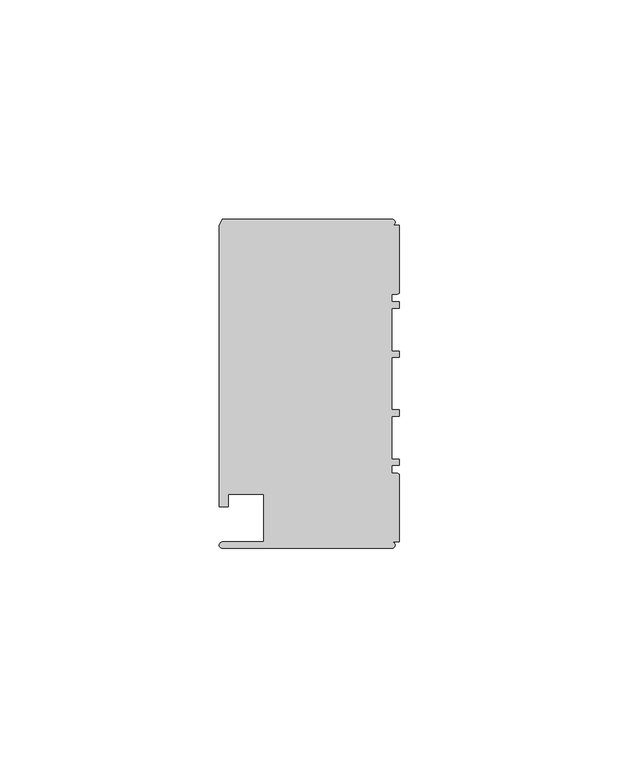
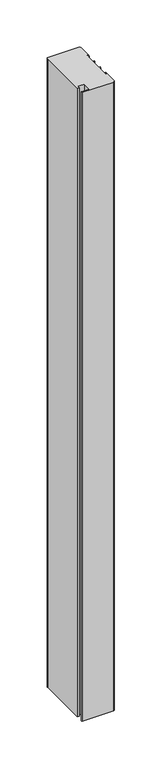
"""IFC4 building model written with IfcOpenShell, lengths in millimetres: member geometry, Прямоугольный импост : 1-AMG-1-Профиль 40Х75 Низ Л."""

from ifc_helpers import new_model, si_unit, point, frame, frame_2d, origin, place, context, project, spatial, polyline, circle_curve, trimmed, segment, composite_curve, outline, extrude, source, transform, mapped, element, save


def member_75674783(model_context):
    return source(origin(), model_context, "Body", "SweptSolid", [
        extrude(outline(composite_curve([segment(polyline([(-1.7, -37.5), (-40.4, -37.5)]), True, "CONTINUOUS"), segment(trimmed(circle_curve(frame_2d((-40.4, -36.8)), 0.7), [point((-40.4, -37.5))], [point((-40.4, -36.1))], False, "CARTESIAN"), True, "CONTINUOUS"), segment(polyline([(-40.4, -36.1), (-31.0, -36.1), (-31.0, -25.25), (-39.0, -25.25), (-39.0, -28.1), (-41.1, -28.1), (-41.1, 35.6)]), True, "CONTINUOUS"), segment(trimmed(circle_curve(frame_2d((-38.1714286, 35.6)), 2.9285714), [point((-41.1, 35.6))], [point((-40.4, 37.5))], False, "CARTESIAN"), True, "CONTINUOUS"), segment(polyline([(-40.4, 37.5), (-1.7, 37.5)]), True, "CONTINUOUS"), segment(trimmed(circle_curve(frame_2d((-1.7, 36.8)), 0.7), [point((-1.7, 37.5))], [point((-1.7, 36.1))], False, "CARTESIAN"), True, "CONTINUOUS"), segment(polyline([(-1.7, 36.1), (0.0, 36.1), (0.0, 20.95)]), True, "CONTINUOUS"), segment(trimmed(circle_curve(frame_2d((-0.5, 20.95)), 0.5), [point((0.0, 20.95))], [point((-0.5, 20.45))], False, "CARTESIAN"), True, "CONTINUOUS"), segment(polyline([(-0.5, 20.45), (-1.8, 20.45), (-1.8, 18.65), (0.0, 18.65), (0.0, 17.25), (-1.8, 17.25), (-1.8, 7.4), (0.0, 7.4), (0.0, 6.0), (-1.8, 6.0), (-1.8, -6.0), (0.0, -6.0), (0.0, -7.4), (-1.8, -7.4), (-1.8, -17.25), (0.0, -17.25), (0.0, -18.65), (-1.8, -18.65), (-1.8, -20.45), (-0.5, -20.45)]), True, "CONTINUOUS"), segment(trimmed(circle_curve(frame_2d((-0.5, -20.95)), 0.5), [point((-0.5, -20.45))], [point((0.0, -20.95))], False, "CARTESIAN"), True, "CONTINUOUS"), segment(polyline([(0.0, -20.95), (0.0, -36.1), (-1.7, -36.1)]), True, "CONTINUOUS"), segment(trimmed(circle_curve(frame_2d((-1.7, -36.8)), 0.7), [point((-1.7, -36.1))], [point((-1.7, -37.5))], False, "CARTESIAN"), True, "CONTINUOUS")], self_intersect=False)), frame((0.0, 0.0, -821.1046876), z_axis=(0.0, 0.0, 1.0), x_axis=(1.0, 0.0, 0.0)), (0.0, 0.0, 1.0), 821.1046876),
    ])


if __name__ == "__main__":
    model = new_model("IFC4")
    model_context = context("Model", 3, world=origin())
    ifc_project = project(units=[si_unit("LENGTHUNIT", "METRE", prefix="MILLI")], contexts=[model_context])
    site = spatial("IfcSite", under=ifc_project)
    building = spatial("IfcBuilding", under=site)
    placement = place(None, origin())
    member_shape = member_75674783(model_context)
    element("IfcMember", 1, ObjectType="Прямоугольный импост : 1-AMG-1-Профиль 40Х75 Низ Л", at=placement, inside=building, context=model_context, shape_type="MappedRepresentation", body=[
        mapped(member_shape, transform((0.0, 0.0, 0.0), x_axis=(1.0, 0.0, 0.0), y_axis=(0.0, 1.0, 0.0), z_axis=(0.0, 0.0, 1.0))),
    ])
    save(model, "model.ifc")
